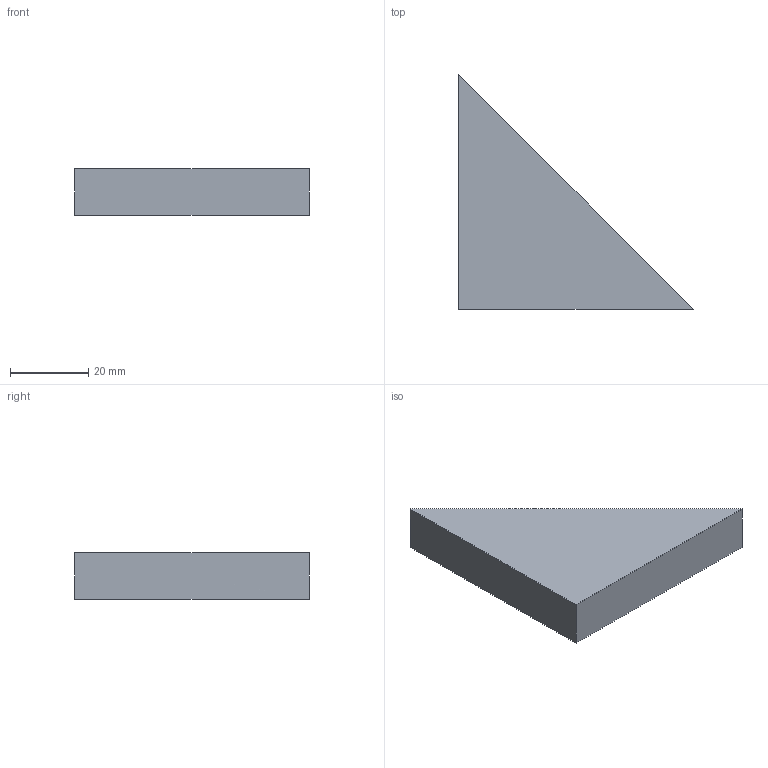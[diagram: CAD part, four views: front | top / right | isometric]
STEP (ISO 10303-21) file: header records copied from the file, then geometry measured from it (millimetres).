
FILE_DESCRIPTION(('Open CASCADE Model'),'2;1');
FILE_NAME('Open CASCADE Shape Model','2026-10-15T15:10:05',('Author'),( 'Open CASCADE'),'Open CASCADE STEP processor 8.0','Open CASCADE 8.0' ,'Unknown');
FILE_SCHEMA(('AUTOMOTIVE_DESIGN { 1 0 10303 214 1 1 1 1 }'));
Length unit declared in the file: millimetre
Products named in the file (1): TC10_CARTABON_RECEPTOR_60x60x12_P05 144
Bounding box: 60 x 60 x 12 mm (x, y, z)
Volume: 21600 mm3; surface area: 6058.2 mm2
Topology: 1 solids, 1 shells, 5 faces, 9 edges, 6 vertices
Faces by surface type: plane 5
Entity records: 250 total; most frequent: CARTESIAN_POINT 39, DIRECTION 39, LINE 27, VECTOR 27, ORIENTED_EDGE 18, PCURVE 18, DEFINITIONAL_REPRESENTATION 18, EDGE_CURVE 9
